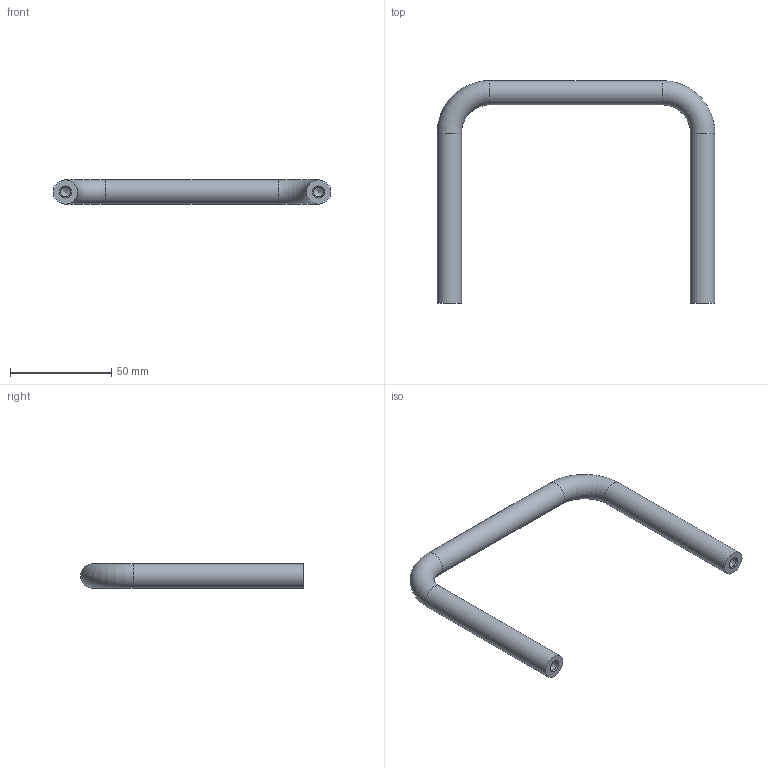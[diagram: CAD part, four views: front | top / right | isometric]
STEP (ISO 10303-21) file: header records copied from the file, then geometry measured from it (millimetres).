
FILE_DESCRIPTION(/* description */ ('STEP AP214'),/* implementation_level */ '2;1');
FILE_NAME(/* name */ 'Cabinet U-Handle_ Stainless Steel GN 435-NI-12-125-110-GS',/* time_stamp */ '2023-12-15T08:45:01+01:00',/* author */ ('License CC BY-ND 4.0'),/* organization */ ('CADENAS'),/* preprocessor_version */ 'ST-DEVELOPER v19.3',/* originating_system */ 'PARTsolutions',/* authorisation */ ' ');
FILE_SCHEMA (('AUTOMOTIVE_DESIGN {1 0 10303 214 3 1 1}'));
Length unit declared in the file: millimetre
Products named in the file (1): Cabinet U-Handle, Stainless Steel GN 435-NI-12-125-110-GS
Bounding box: 137 x 110 x 12 mm (x, y, z)
Volume: 35088.5 mm3; surface area: 12624.4 mm2
Topology: 1 solids, 1 shells, 13 faces, 30 edges, 19 vertices
Faces by surface type: cylinder 5, cone 4, plane 2, torus 2
Full cylindrical faces by diameter (mm): 4.917 x2, 12 x3
Entity records: 292 total; most frequent: DIRECTION 52, CARTESIAN_POINT 40, FACE_BOUND 26, AXIS2_PLACEMENT_3D 26, ORIENTED_EDGE 24, EDGE_LOOP 24, VERTEX_POINT 14, ADVANCED_FACE 13
